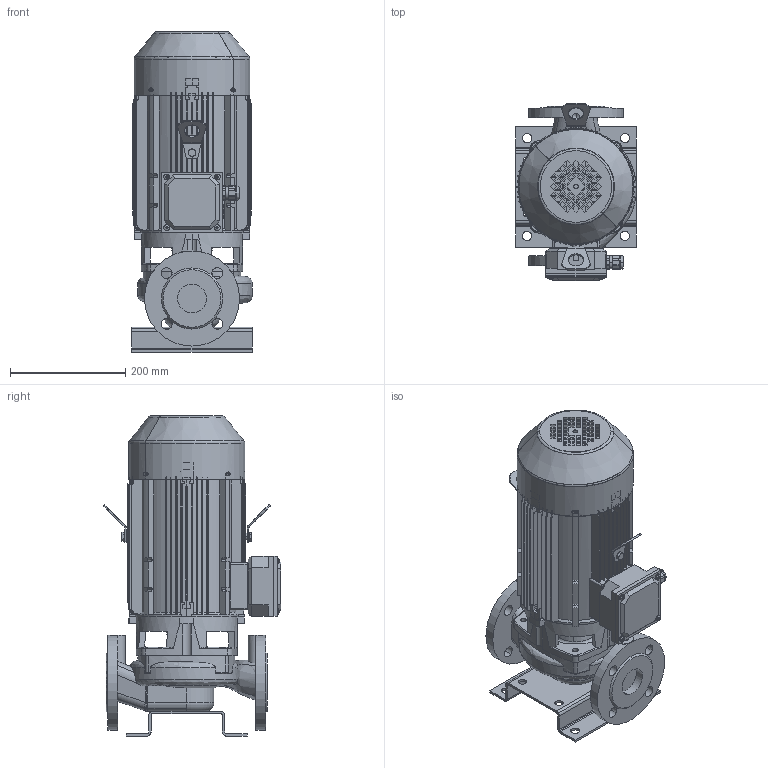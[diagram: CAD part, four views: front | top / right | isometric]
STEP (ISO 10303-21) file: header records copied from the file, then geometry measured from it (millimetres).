
FILE_DESCRIPTION(('STEP AP214'),'1');
FILE_NAME('export.stp','2018-05-29T06:25:09',(' '),(' '),'Spatial InterOp 3D',' ',' ');
FILE_SCHEMA(('AUTOMOTIVE_DESIGN { 1 0 10303 214 1 1 1 1 }'));
Length unit declared in the file: millimetre
Products named in the file (24): W_L50D2300_KP100; V_TLL50ABC; V_PPL50ABC; V_JALKA35973; 160017; 160009; V_MKP-100_F16; 160141; 160137; 160138; 160139; 160140; Koura_Ale_M5; Plug_Blind_M20; Sealing_Plug_M20; DIN_7985-M5X8; DIN_7985-M5X12; 480041; 480040___; 480043; 480042___; 160134; DIN_EN_24017_-_M8_16-Stainless_S; 160136
Assembly tree (28 placements, depth 4):
  W_L50D2300_KP100
    V_TLL50ABC
    V_PPL50ABC
    V_JALKA35973
    V_MKP-100_F16
      160017
        160009
      160141
        160137
        160138
        160139
        160140
        Koura_Ale_M5
        Plug_Blind_M20
        Sealing_Plug_M20
        DIN_7985-M5X8
        DIN_7985-M5X12  x4
      480041
        480040___
      480043
        480042___
      160134  x2
      DIN_EN_24017_-_M8_16-Stainless_S  x2
      160136
Bounding box: 210 x 308.62 x 556 mm (x, y, z)
Volume: 4854366.6 mm3; surface area: 1520143.8 mm2
Topology: 23 solids, 23 shells, 2355 faces, 6278 edges, 4007 vertices
Faces by surface type: plane 1070, cylinder 747, torus 211, cone 171, bspline 145, sphere 11
Entity records: 86576 total; most frequent: CARTESIAN_POINT 27602, ORIENTED_EDGE 11948, DIRECTION 11348, EDGE_CURVE 5974, AXIS2_PLACEMENT_3D 4221, VERTEX_POINT 3829, LINE 2906, VECTOR 2906
